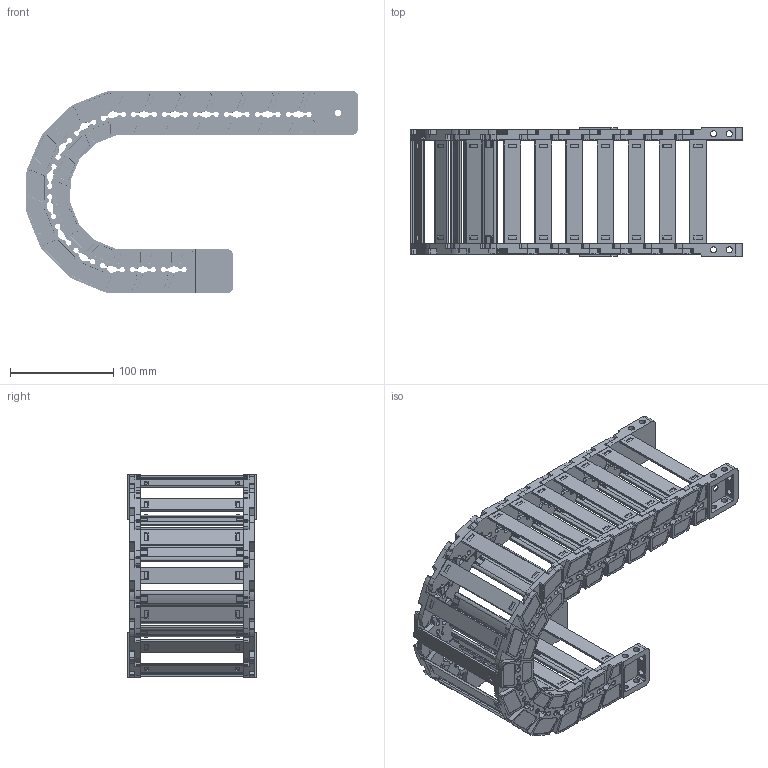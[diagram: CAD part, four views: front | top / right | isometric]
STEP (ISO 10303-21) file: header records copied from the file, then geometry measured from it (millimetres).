
FILE_DESCRIPTION((''),'2;1');
FILE_NAME('JY-35X100-R75_ASM','2026-05-07T15:25:18',('admin'),(''),'CREO PARAMETRIC BY PTC INC, 2021023','CREO PARAMETRIC BY PTC INC, 2021023','');
FILE_SCHEMA(('CONFIG_CONTROL_DESIGN'));
Length unit declared in the file: millimetre
Products named in the file (11): 35XL-L; YP; 35XL-R; ASM0001_ASM; 35-LTT-A-L; 35-LTT-A-R; 35XL-LTT-A_ASM; 35-LTT-B-L; 35-LTT-B-R; 35XL-LTT-B_ASM; JY-35X100-R75_ASM
Assembly tree (29 placements, depth 3):
  JY-35X100-R75_ASM
    ASM0001_ASM  x15
      35XL-L
      YP
      35XL-R
    35XL-LTT-A_ASM
      35-LTT-A-L
      YP  x2
      35-LTT-A-R
    35XL-LTT-B_ASM
      35-LTT-B-L
      YP  x2
      35-LTT-B-R
Bounding box: 321.72 x 124.5 x 196.34 mm (x, y, z)
Volume: 544922.5 mm3; surface area: 331552.1 mm2
Topology: 68 solids, 68 shells, 5536 faces, 16584 edges, 11192 vertices
Faces by surface type: plane 3130, cylinder 1830, cone 352, extrusion 128, bspline 96
Entity records: 27842 total; most frequent: CARTESIAN_POINT 6162, ORIENTED_EDGE 4640, DIRECTION 4353, EDGE_CURVE 2320, VERTEX_POINT 1568, AXIS2_PLACEMENT_3D 1468, VECTOR 1417, LINE 1401
